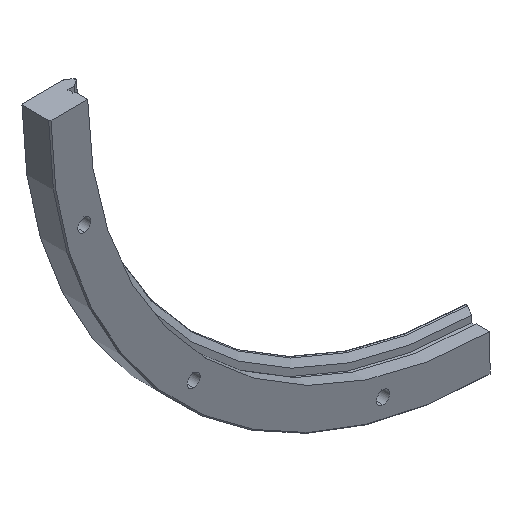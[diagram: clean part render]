
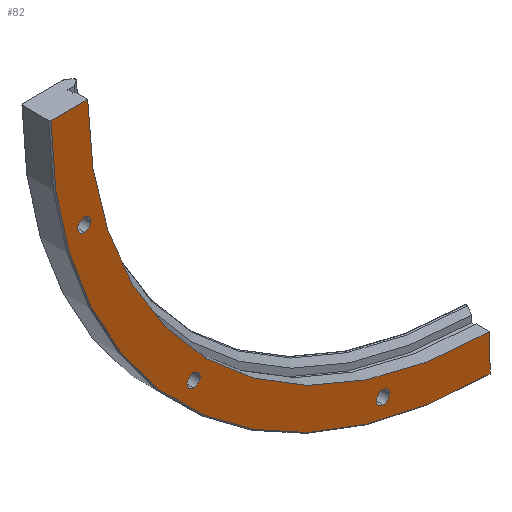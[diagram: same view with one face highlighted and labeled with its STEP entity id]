
A CAD part, isometric view. The second image highlights one B-rep face of the part: STEP entity #82.
In plain terms, the highlighted planar face has unit normal (0, -1, 0).
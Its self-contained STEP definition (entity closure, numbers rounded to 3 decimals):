
#82=ADVANCED_FACE('',(#120,#121,#122,#123),#124,.T.);
#120=FACE_OUTER_BOUND('',#189,.T.);
#121=FACE_BOUND('',#190,.T.);
#122=FACE_BOUND('',#191,.T.);
#123=FACE_BOUND('',#192,.T.);
#124=PLANE('',#193);
#189=EDGE_LOOP('',(#293,#294,#295,#296));
#190=EDGE_LOOP('',(#297,#298));
#191=EDGE_LOOP('',(#299,#300));
#192=EDGE_LOOP('',(#301,#302));
#193=AXIS2_PLACEMENT_3D('',#303,#304,#305);
#293=ORIENTED_EDGE('',*,*,#512,.F.);
#294=ORIENTED_EDGE('',*,*,#513,.T.);
#295=ORIENTED_EDGE('',*,*,#514,.F.);
#296=ORIENTED_EDGE('',*,*,#515,.F.);
#297=ORIENTED_EDGE('',*,*,#516,.T.);
#298=ORIENTED_EDGE('',*,*,#492,.T.);
#299=ORIENTED_EDGE('',*,*,#517,.T.);
#300=ORIENTED_EDGE('',*,*,#508,.T.);
#301=ORIENTED_EDGE('',*,*,#518,.T.);
#302=ORIENTED_EDGE('',*,*,#500,.T.);
#303=CARTESIAN_POINT('',(-186.5,-9.825,0.0));
#304=DIRECTION('',(0.0,-1.0,0.0));
#305=DIRECTION('',(0.0,0.0,-1.0));
#492=EDGE_CURVE('',#575,#576,#577,.T.);
#500=EDGE_CURVE('',#591,#592,#593,.T.);
#508=EDGE_CURVE('',#607,#608,#609,.T.);
#512=EDGE_CURVE('',#615,#616,#617,.T.);
#513=EDGE_CURVE('',#615,#618,#619,.T.);
#514=EDGE_CURVE('',#620,#618,#621,.T.);
#515=EDGE_CURVE('',#616,#620,#622,.T.);
#516=EDGE_CURVE('',#576,#575,#623,.T.);
#517=EDGE_CURVE('',#608,#607,#624,.T.);
#518=EDGE_CURVE('',#592,#591,#625,.T.);
#575=VERTEX_POINT('',#712);
#576=VERTEX_POINT('',#713);
#577=CIRCLE('',#714,2.75);
#591=VERTEX_POINT('',#732);
#592=VERTEX_POINT('',#733);
#593=CIRCLE('',#734,2.75);
#607=VERTEX_POINT('',#752);
#608=VERTEX_POINT('',#753);
#609=CIRCLE('',#754,2.75);
#615=VERTEX_POINT('',#762);
#616=VERTEX_POINT('',#763);
#617=LINE('',#764,#765);
#618=VERTEX_POINT('',#766);
#619=CIRCLE('',#767,171.0);
#620=VERTEX_POINT('',#768);
#621=LINE('',#769,#770);
#622=CIRCLE('',#771,186.5);
#623=CIRCLE('',#772,2.75);
#624=CIRCLE('',#773,2.75);
#625=CIRCLE('',#774,2.75);
#712=CARTESIAN_POINT('',(-46.199,-9.825,-175.168));
#713=CARTESIAN_POINT('',(-46.199,-9.825,-169.668));
#714=AXIS2_PLACEMENT_3D('',#893,#894,#895);
#732=CARTESIAN_POINT('',(-126.219,-9.825,-128.969));
#733=CARTESIAN_POINT('',(-126.219,-9.825,-123.469));
#734=AXIS2_PLACEMENT_3D('',#909,#910,#911);
#752=CARTESIAN_POINT('',(-172.418,-9.825,-48.949));
#753=CARTESIAN_POINT('',(-172.418,-9.825,-43.449));
#754=AXIS2_PLACEMENT_3D('',#925,#926,#927);
#762=CARTESIAN_POINT('',(-1.,-9.825,-170.997));
#763=CARTESIAN_POINT('',(-1.,-9.825,-186.497));
#764=CARTESIAN_POINT('',(-1.,-9.825,-999.999));
#765=VECTOR('',#933,1000.0);
#766=CARTESIAN_POINT('',(-170.997,-9.825,-1.));
#767=AXIS2_PLACEMENT_3D('',#934,#935,#936);
#768=CARTESIAN_POINT('',(-186.497,-9.825,-1.));
#769=CARTESIAN_POINT('',(-999.999,-9.825,-1.));
#770=VECTOR('',#937,1000.0);
#771=AXIS2_PLACEMENT_3D('',#938,#939,#940);
#772=AXIS2_PLACEMENT_3D('',#941,#942,#943);
#773=AXIS2_PLACEMENT_3D('',#944,#945,#946);
#774=AXIS2_PLACEMENT_3D('',#947,#948,#949);
#893=CARTESIAN_POINT('',(-46.199,-9.825,-172.418));
#894=DIRECTION('',(-0.0,1.0,0.0));
#895=DIRECTION('',(0.0,0.0,1.0));
#909=CARTESIAN_POINT('',(-126.219,-9.825,-126.219));
#910=DIRECTION('',(-0.0,1.0,0.0));
#911=DIRECTION('',(0.0,0.0,1.0));
#925=CARTESIAN_POINT('',(-172.418,-9.825,-46.199));
#926=DIRECTION('',(-0.0,1.0,0.0));
#927=DIRECTION('',(0.0,0.0,1.0));
#933=DIRECTION('',(0.,-0.0,-1.0));
#934=CARTESIAN_POINT('',(0.0,-9.825,0.0));
#935=DIRECTION('',(-0.0,1.0,0.0));
#936=DIRECTION('',(0.0,0.0,1.0));
#937=DIRECTION('',(1.0,0.0,0.0));
#938=CARTESIAN_POINT('',(0.0,-9.825,0.0));
#939=DIRECTION('',(-0.0,1.0,0.0));
#940=DIRECTION('',(0.0,0.0,1.0));
#941=CARTESIAN_POINT('',(-46.199,-9.825,-172.418));
#942=DIRECTION('',(-0.0,1.0,0.0));
#943=DIRECTION('',(0.0,0.0,1.0));
#944=CARTESIAN_POINT('',(-172.418,-9.825,-46.199));
#945=DIRECTION('',(-0.0,1.0,0.0));
#946=DIRECTION('',(0.0,0.0,1.0));
#947=CARTESIAN_POINT('',(-126.219,-9.825,-126.219));
#948=DIRECTION('',(-0.0,1.0,0.0));
#949=DIRECTION('',(0.0,0.0,1.0));
